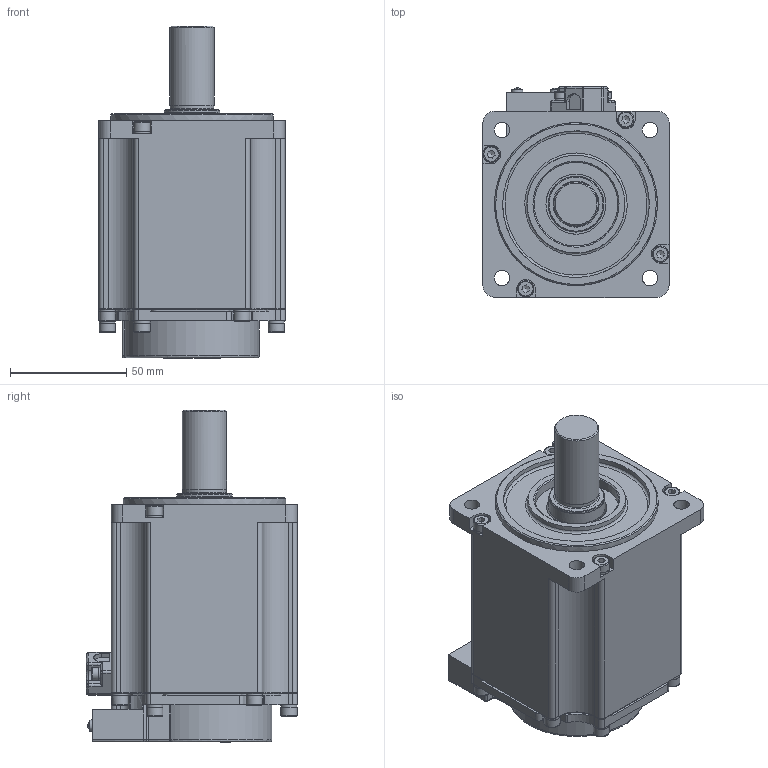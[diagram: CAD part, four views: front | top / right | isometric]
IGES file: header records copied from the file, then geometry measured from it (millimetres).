
Global section: file name: L075; native system: Autodesk Inventor 2014; preprocessor: unknown; author: Mejust; date: 20160718.094644; units: millimetre
Bounding box: 80.03 x 90.72 x 142.7 mm (x, y, z)
Volume: 146253.4 mm3; surface area: 89993.8 mm2
Topology: 4 solids, 36 shells, 858 faces, 2243 edges, 1490 vertices
Faces by surface type: bspline 858
